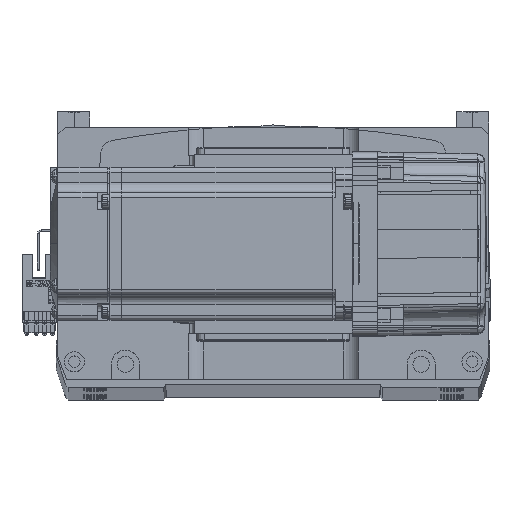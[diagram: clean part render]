
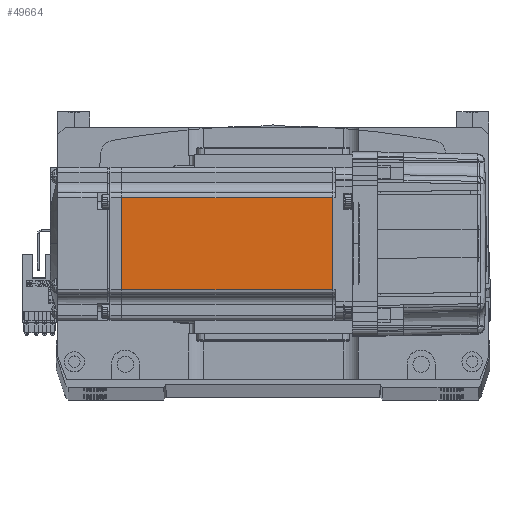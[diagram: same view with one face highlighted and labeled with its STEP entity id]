
A CAD part, top view. The second image highlights one B-rep face of the part: STEP entity #49664.
In plain terms, the highlighted planar face has unit normal (0, 0, 1).
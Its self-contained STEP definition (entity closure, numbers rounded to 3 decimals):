
#205 = VECTOR ( 'NONE', #10628, 1000. ) ;
#1288 = DIRECTION ( 'NONE',  ( 1., 0., 0. ) ) ;
#2905 = VERTEX_POINT ( 'NONE', #57727 ) ;
#5267 = ORIENTED_EDGE ( 'NONE', *, *, #13860, .F. ) ;
#6924 = LINE ( 'NONE', #20840, #28107 ) ;
#8719 = CARTESIAN_POINT ( 'NONE',  ( -6.5, -18., 30. ) ) ;
#8733 = CARTESIAN_POINT ( 'NONE',  ( -7.75, 18., 30. ) ) ;
#9002 = VERTEX_POINT ( 'NONE', #8733 ) ;
#9638 = VERTEX_POINT ( 'NONE', #26099 ) ;
#10337 = VECTOR ( 'NONE', #12796, 1000. ) ;
#10628 = DIRECTION ( 'NONE',  ( -1., 0., 0. ) ) ;
#12796 = DIRECTION ( 'NONE',  ( -1., 0., 0. ) ) ;
#13013 = CARTESIAN_POINT ( 'NONE',  ( -90.45, 18., 30. ) ) ;
#13860 = EDGE_CURVE ( 'NONE', #2905, #9638, #68770, .T. ) ;
#14612 = AXIS2_PLACEMENT_3D ( 'NONE', #34165, #39333, #1288 ) ;
#19579 = ORIENTED_EDGE ( 'NONE', *, *, #34004, .T. ) ;
#20513 = LINE ( 'NONE', #34874, #67827 ) ;
#20840 = CARTESIAN_POINT ( 'NONE',  ( -7.75, 0., 30. ) ) ;
#24438 = EDGE_CURVE ( 'NONE', #9002, #2905, #6924, .T. ) ;
#26099 = CARTESIAN_POINT ( 'NONE',  ( -90.45, -18., 30. ) ) ;
#26248 = DIRECTION ( 'NONE',  ( 0., -1., 0. ) ) ;
#28107 = VECTOR ( 'NONE', #26248, 1000. ) ;
#28531 = EDGE_CURVE ( 'NONE', #30930, #9638, #20513, .T. ) ;
#29481 = DIRECTION ( 'NONE',  ( 0., -1., 0. ) ) ;
#30930 = VERTEX_POINT ( 'NONE', #13013 ) ;
#34004 = EDGE_CURVE ( 'NONE', #9002, #30930, #55996, .T. ) ;
#34165 = CARTESIAN_POINT ( 'NONE',  ( -6.5, -25., 30. ) ) ;
#34874 = CARTESIAN_POINT ( 'NONE',  ( -90.45, 0., 30. ) ) ;
#39333 = DIRECTION ( 'NONE',  ( 0., 0., 1. ) ) ;
#41238 = ORIENTED_EDGE ( 'NONE', *, *, #24438, .F. ) ;
#49664 = ADVANCED_FACE ( 'NONE', ( #51726 ), #55236, .T. ) ;
#50836 = CARTESIAN_POINT ( 'NONE',  ( -6.5, 18., 30. ) ) ;
#51726 = FACE_OUTER_BOUND ( 'NONE', #64168, .T. ) ;
#55236 = PLANE ( 'NONE',  #14612 ) ;
#55996 = LINE ( 'NONE', #50836, #10337 ) ;
#57727 = CARTESIAN_POINT ( 'NONE',  ( -7.75, -18., 30. ) ) ;
#63010 = ORIENTED_EDGE ( 'NONE', *, *, #28531, .T. ) ;
#64168 = EDGE_LOOP ( 'NONE', ( #41238, #19579, #63010, #5267 ) ) ;
#67827 = VECTOR ( 'NONE', #29481, 1000. ) ;
#68770 = LINE ( 'NONE', #8719, #205 ) ;
